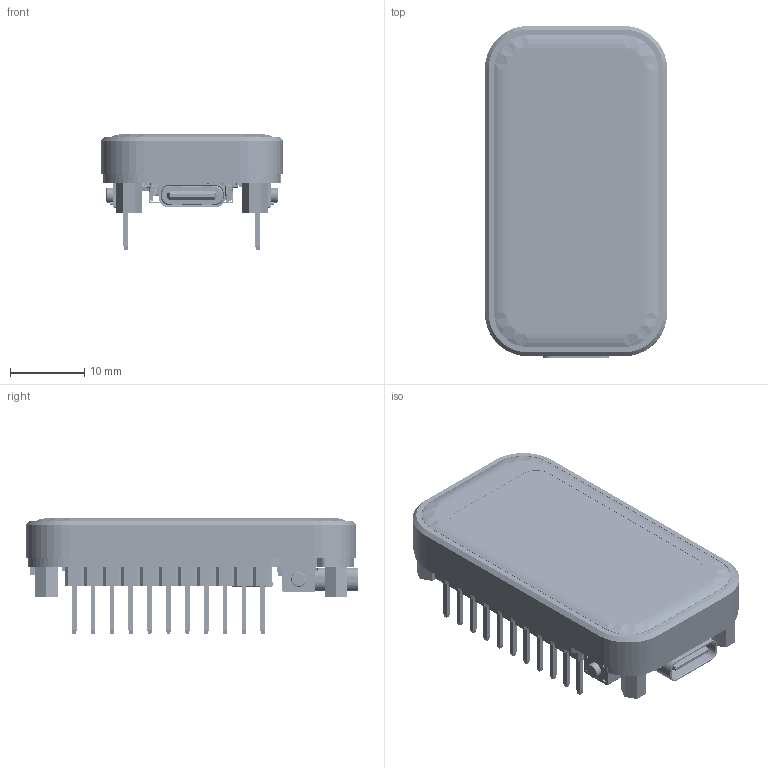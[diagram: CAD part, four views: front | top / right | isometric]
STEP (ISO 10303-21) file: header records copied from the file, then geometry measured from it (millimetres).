
FILE_DESCRIPTION((''),'2;1');
FILE_NAME('ESP32-S3-TOUCH-LCD-1_47_ASM','2025-04-11T14:42:37',('xiaojisheng'),(''),'CREO PARAMETRIC BY PTC INC, 2021063','CREO PARAMETRIC BY PTC INC, 2021063','');
FILE_SCHEMA(('CONFIG_CONTROL_DESIGN','SHAPE_APPEARANCE_LAYERS_GROUPS'));
Products named in the file (164): HSX01470105002B-A0; HSX0147024Y15-A0; HSX0147-TP_LCD_ASM; BOARD; USER_LIBRARY-0201_0603M__CAP_1; USER_LIBRARY-0201_0603M__CAP_2; USER_LIBRARY-0201_0603M__CAP_3; USER_LIBRARY-0201_0603M__CAP_ASM; C1_ASM; C2_ASM; C3_ASM; C4_ASM; C5_ASM; C6_ASM; C7_ASM; C8_ASM; C9_ASM; C10_ASM; C11_ASM; C12_ASM; C13_ASM; _1_10001; 3_1_A; 2_100; C_0402-672_AF0_ASM_ASM; C_0402-4045_AF0_ASM_ASM; C_0402_ASM; C14_ASM; C15_ASM; C16_ASM; C17_ASM; 2_1_200; _1_1_20001; 3_1_2_A; C_0603-683_AF0_ASM_ASM; C_0603-7177_AF0_ASM_ASM; C_0603_ASM; C18_ASM; C19_ASM; C20_ASM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
Assembly tree (225 placements, depth 9):
  ESP32-S3-TOUCH-LCD-1_47_ASM
    HSX0147-TP_LCD_ASM
      HSX01470105002B-A0
      HSX0147024Y15-A0
    ESP32-S3-TOUCH-LCD-1_47-PCBA_ASM
      ESP32-TOUCH-LCD-1_47-PCBA-V1_ASM
        PCB_ASM
          BOARD
          C1_ASM
            USER_LIBRARY-0201_0603M__CAP_ASM
              USER_LIBRARY-0201_0603M__CAP_1
              USER_LIBRARY-0201_0603M__CAP_2
              USER_LIBRARY-0201_0603M__CAP_3
          C2_ASM
            USER_LIBRARY-0201_0603M__CAP_ASM
              USER_LIBRARY-0201_0603M__CAP_1
              USER_LIBRARY-0201_0603M__CAP_2
              USER_LIBRARY-0201_0603M__CAP_3
          C3_ASM
            USER_LIBRARY-0201_0603M__CAP_ASM
              USER_LIBRARY-0201_0603M__CAP_1
              USER_LIBRARY-0201_0603M__CAP_2
              USER_LIBRARY-0201_0603M__CAP_3
          C4_ASM
            USER_LIBRARY-0201_0603M__CAP_ASM
              USER_LIBRARY-0201_0603M__CAP_1
              USER_LIBRARY-0201_0603M__CAP_2
              USER_LIBRARY-0201_0603M__CAP_3
          C5_ASM
            USER_LIBRARY-0201_0603M__CAP_ASM
              USER_LIBRARY-0201_0603M__CAP_1
              USER_LIBRARY-0201_0603M__CAP_2
              USER_LIBRARY-0201_0603M__CAP_3
          C6_ASM
            USER_LIBRARY-0201_0603M__CAP_ASM
              USER_LIBRARY-0201_0603M__CAP_1
              USER_LIBRARY-0201_0603M__CAP_2
              USER_LIBRARY-0201_0603M__CAP_3
          C7_ASM
            USER_LIBRARY-0201_0603M__CAP_ASM
              USER_LIBRARY-0201_0603M__CAP_1
              USER_LIBRARY-0201_0603M__CAP_2
              USER_LIBRARY-0201_0603M__CAP_3
          C8_ASM
            USER_LIBRARY-0201_0603M__CAP_ASM
              USER_LIBRARY-0201_0603M__CAP_1
              USER_LIBRARY-0201_0603M__CAP_2
              USER_LIBRARY-0201_0603M__CAP_3
          C9_ASM
            USER_LIBRARY-0201_0603M__CAP_ASM
              USER_LIBRARY-0201_0603M__CAP_1
              USER_LIBRARY-0201_0603M__CAP_2
              USER_LIBRARY-0201_0603M__CAP_3
          C10_ASM
            USER_LIBRARY-0201_0603M__CAP_ASM
              USER_LIBRARY-0201_0603M__CAP_1
              USER_LIBRARY-0201_0603M__CAP_2
              USER_LIBRARY-0201_0603M__CAP_3
          C11_ASM
            USER_LIBRARY-0201_0603M__CAP_ASM
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Bounding box: 24.55 x 44.73 x 15.6 mm (x, y, z)
Volume: 6075.9 mm3; surface area: 12553.6 mm2
Topology: 249 solids, 264 shells, 12452 faces, 32858 edges, 21248 vertices
Faces by surface type: plane 8096, extrusion 2011, cylinder 1940, sphere 235, cone 64, bspline 60, torus 46
Entity records: 260571 total; most frequent: CARTESIAN_POINT 52571, ORIENTED_EDGE 34310, DIRECTION 31690, EDGE_CURVE 17158, VECTOR 13830, PRESENTATION_STYLE_ASSIGNMENT 13402, LINE 13398, STYLED_ITEM 12600
